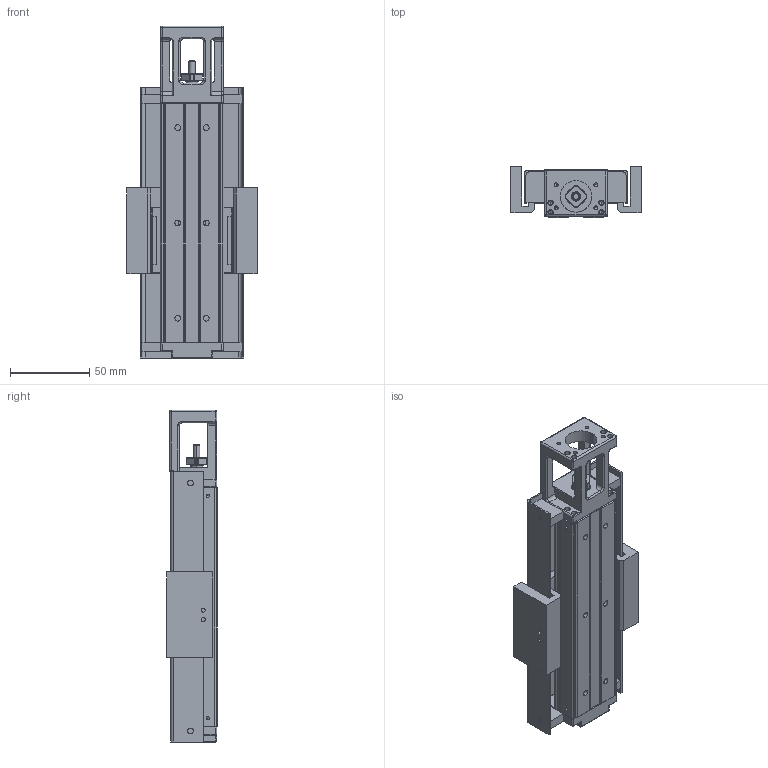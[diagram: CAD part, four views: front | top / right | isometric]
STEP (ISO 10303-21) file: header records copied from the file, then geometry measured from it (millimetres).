
FILE_DESCRIPTION (( 'STEP AP203' ), '1' );
FILE_NAME ('hkk40-150a1f0s.STEP', '2016-11-03T06:23:11', ( 'Windows' ), ( 'Microsoft' ), 'SwSTEP 2.0', 'SolidWorks 2016', '' );
FILE_SCHEMA (( 'CONFIG_CONTROL_DESIGN' ));
Length unit declared in the file: millimetre
Products named in the file (3): 40賑怢郪; hkk40-150a1f0s; 掛极
Assembly tree (2 placements, depth 2):
  hkk40-150a1f0s
    掛极
    40賑怢郪
Bounding box: 82 x 32 x 209 mm (x, y, z)
Volume: 167070 mm3; surface area: 112973.7 mm2
Topology: 19 solids, 19 shells, 1148 faces, 3030 edges, 1873 vertices
Faces by surface type: cylinder 439, plane 393, cone 185, bspline 99, torus 22, sphere 10
Entity records: 47694 total; most frequent: CARTESIAN_POINT 20311, ORIENTED_EDGE 5828, DIRECTION 5233, EDGE_CURVE 2914, VERTEX_POINT 1871, AXIS2_PLACEMENT_3D 1863, VECTOR 1507, LINE 1507
